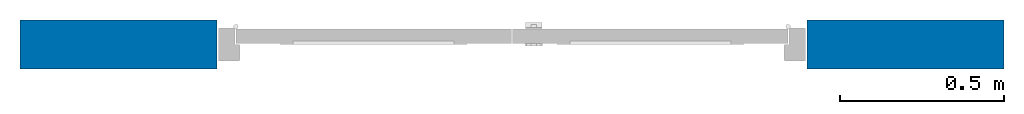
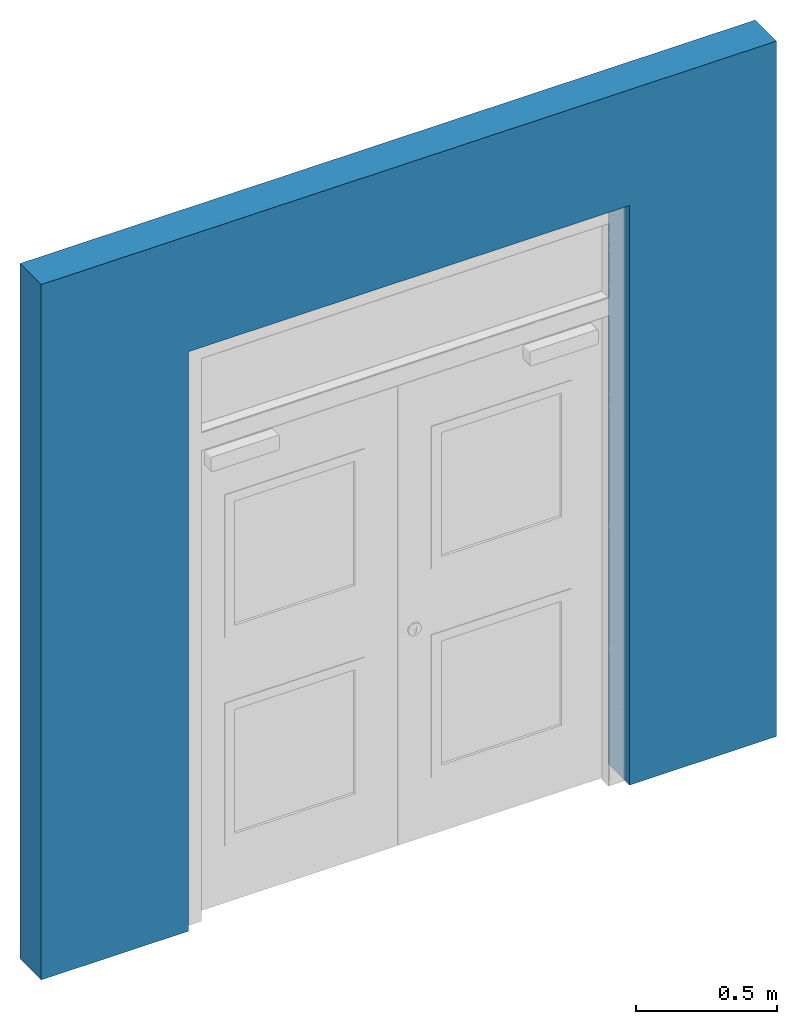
# One storey, incomplete: 1 wall, 1 opening.
"""IFC2X3 building model written with IfcOpenShell, lengths in millimetres."""

from ifc_helpers import new_model, entity, si_unit, converted_unit, derived_unit, direction, frame, frame_2d, origin, place, context, subcontext, project, spatial, rectangle, extrude, material, layer, layer_set, layer_usage, type_object, element, save


model = new_model("IFC2X3")

# Units and contexts
model_context = context("Model", 3, precision=0.01, world=origin(), true_north=direction((6.12303176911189e-17, 1.0)))
body_context = subcontext(model_context, "Body", "Model", "MODEL_VIEW")
ifc_project = project(units=[si_unit("LENGTHUNIT", "METRE", prefix="MILLI"), si_unit("AREAUNIT", "SQUARE_METRE"), si_unit("VOLUMEUNIT", "CUBIC_METRE"), converted_unit("PLANEANGLEUNIT", "DEGREE", entity("IfcRatioMeasure", 0.0174532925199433), si_unit("PLANEANGLEUNIT", "RADIAN"), dimensions=[0, 0, 0, 0, 0, 0, 0]), si_unit("MASSUNIT", "GRAM", prefix="KILO"), si_unit("TIMEUNIT", "SECOND"), si_unit("FREQUENCYUNIT", "HERTZ"), si_unit("THERMODYNAMICTEMPERATUREUNIT", "DEGREE_CELSIUS"), derived_unit("THERMALTRANSMITTANCEUNIT", [(si_unit("MASSUNIT", "GRAM", prefix="KILO"), 1), (si_unit("THERMODYNAMICTEMPERATUREUNIT", "KELVIN"), -1), (si_unit("TIMEUNIT", "SECOND"), -3)]), derived_unit("VOLUMETRICFLOWRATEUNIT", [(si_unit("LENGTHUNIT", "METRE"), 3), (si_unit("TIMEUNIT", "SECOND"), -1)]), si_unit("ELECTRICCURRENTUNIT", "AMPERE"), si_unit("ELECTRICVOLTAGEUNIT", "VOLT"), si_unit("POWERUNIT", "WATT"), si_unit("FORCEUNIT", "NEWTON", prefix="KILO"), si_unit("ILLUMINANCEUNIT", "LUX"), si_unit("LUMINOUSFLUXUNIT", "LUMEN"), si_unit("LUMINOUSINTENSITYUNIT", "CANDELA"), si_unit("PRESSUREUNIT", "PASCAL")], contexts=[model_context])

# Site, building, storey
site_placement = place(None, origin())
site = spatial("IfcSite", under=ifc_project, at=site_placement, Name="Default", CompositionType="ELEMENT")
building_placement = place(site_placement, origin())
building = spatial("IfcBuilding", under=site, at=building_placement, CompositionType="ELEMENT")
storey_placement = place(building_placement, origin())
storey = spatial("IfcBuildingStorey", under=building, at=storey_placement, Name="Level 1", CompositionType="ELEMENT", Elevation=0.0)

# Wall, opening
ifc_material = material(Name="nbl_Concept")
ifc_layer = layer(ifc_material, 150.0)
ifc_layer_set = layer_set([ifc_layer], Name="Basic Wall:NBS_Int_Concept")
ifc_layer_usage = layer_usage(ifc_layer_set, "AXIS2", "POSITIVE", -75.0)
wall_type = type_object("IfcWallType", Name="Basic Wall:NBS_Int_Concept", PredefinedType="STANDARD", material=ifc_layer_set)
wall_placement = place(storey_placement, frame((-1500.0, 0.0, 0.0)))
wall = element("IfcWallStandardCase", 1, at=wall_placement, inside=storey, type_object=wall_type, material=ifc_layer_usage, Name="Basic Wall:NBS_Int_Concept:2301", ObjectType="Basic Wall:NBS_Int_Concept:2340", context=body_context, shape_type="SweptSolid", body=[
    extrude(rectangle(XDim=3000.0, YDim=150.0, at=frame_2d((1500.0, 0.0), x_axis=(-1.0, 0.0))), origin(), (0.0, 0.0, 1.0), 3000.0),
])
opening_placement = place(wall_placement, frame((600.0, -75.0, 0.0)))
element("IfcOpeningElement", 2, at=opening_placement, cuts=wall, Name="NBS_AssaAbloyLtd_DrsetSym_AASDMetalPlantRoomDoor_Double-OverheadPanel-DoubleLouvre:1800x2500mm:1", ObjectType="Opening", context=body_context, shape_type="SweptSolid", body=[
    extrude(rectangle(XDim=2500.0, YDim=1800.0, at=frame_2d((1250.0, 900.0), x_axis=(1.0, 0.0))), frame((0.0, 0.0, 0.0), z_axis=(0.0, 1.0, 0.0), x_axis=(0.0, 0.0, 1.0)), (0.0, 0.0, 1.0), 150.0),
])

save(model, "model.ifc")
